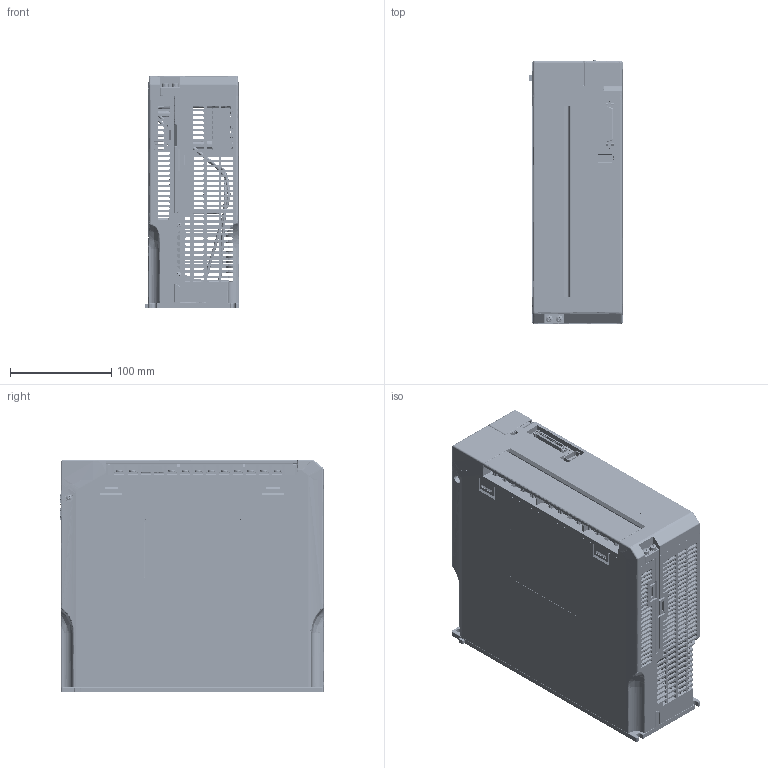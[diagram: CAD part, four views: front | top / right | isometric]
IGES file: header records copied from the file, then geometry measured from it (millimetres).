
Start section: SolidWorks IGES file using analytic representation for surfaces
Global section: file name: Z:\Products\Servo\08.2024\UNITRONICS\B5 & E5-S Drivers\400VAC ,Rated power:5kW~7.5KW CanOPEN\400VAC ,Rated power:5kW~7.5KW CanOPEN.IGS; native system: SolidWorks 2022; preprocessor: SolidWorks 2022; author: OfirZ; date: 240910.142959; units: millimetre
Bounding box: 93 x 260.3 x 230.01 mm (x, y, z)
Surface area: 620119.1 mm2 (no closed solid volume)
Topology: 0 solids, 0 shells, 14424 faces, 112173 edges, 111857 vertices
Faces by surface type: bspline 11097, revolution 3327
